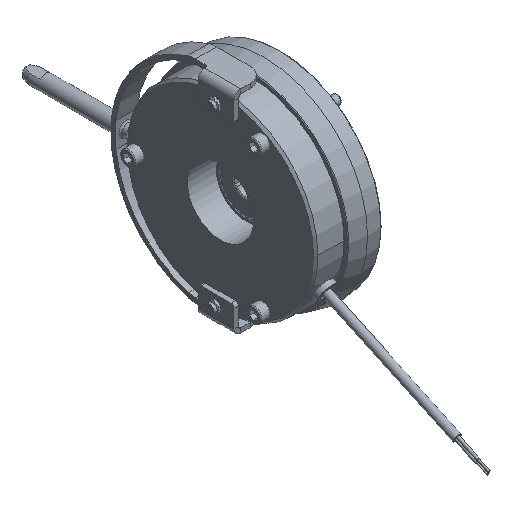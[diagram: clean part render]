
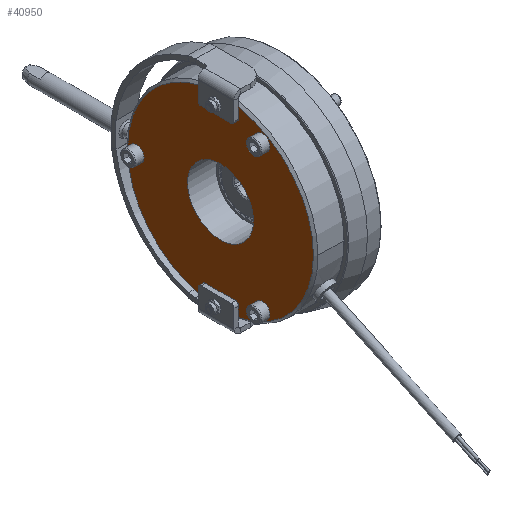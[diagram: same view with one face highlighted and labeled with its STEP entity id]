
A CAD part, isometric view. The second image highlights one B-rep face of the part: STEP entity #40950.
In plain terms, the highlighted planar face has unit normal (-1, 0, 0).
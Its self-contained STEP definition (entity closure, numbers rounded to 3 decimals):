
#2469=FACE_BOUND('',#7057,.T.);
#2470=FACE_BOUND('',#7058,.T.);
#2471=FACE_BOUND('',#7059,.T.);
#2472=FACE_BOUND('',#7060,.T.);
#2895=PLANE('',#45080);
#4909=FACE_OUTER_BOUND('',#7056,.T.);
#7056=EDGE_LOOP('',(#35412,#35413,#35414,#35415,#35416,#35417,#35418,#35419,
#35420,#35421,#35422,#35423,#35424));
#7057=EDGE_LOOP('',(#35425));
#7058=EDGE_LOOP('',(#35426,#35427));
#7059=EDGE_LOOP('',(#35428,#35429));
#7060=EDGE_LOOP('',(#35430,#35431));
#9045=LINE('',#84785,#11030);
#9046=LINE('',#84789,#11031);
#9047=LINE('',#84792,#11032);
#9048=LINE('',#84794,#11033);
#9049=LINE('',#84798,#11034);
#9050=LINE('',#84801,#11035);
#11030=VECTOR('',#55100,10.);
#11031=VECTOR('',#55103,10.);
#11032=VECTOR('',#55106,10.);
#11033=VECTOR('',#55107,10.);
#11034=VECTOR('',#55110,10.);
#11035=VECTOR('',#55113,10.);
#12208=CIRCLE('',#42458,22.);
#12229=CIRCLE('',#42484,62.);
#12231=CIRCLE('',#42486,62.);
#12233=CIRCLE('',#42488,62.);
#12277=CIRCLE('',#42565,5.);
#12278=CIRCLE('',#42566,5.);
#12290=CIRCLE('',#42592,5.);
#12291=CIRCLE('',#42593,5.);
#12303=CIRCLE('',#42619,5.);
#12304=CIRCLE('',#42620,5.);
#13568=CIRCLE('',#45081,2.);
#13569=CIRCLE('',#45082,2.);
#13570=CIRCLE('',#45083,2.);
#13571=CIRCLE('',#45084,2.);
#15202=VERTEX_POINT('',#60451);
#15222=VERTEX_POINT('',#60501);
#15223=VERTEX_POINT('',#60503);
#15224=VERTEX_POINT('',#60505);
#15225=VERTEX_POINT('',#60507);
#15226=VERTEX_POINT('',#60509);
#15283=VERTEX_POINT('',#60858);
#15284=VERTEX_POINT('',#60859);
#15309=VERTEX_POINT('',#60948);
#15310=VERTEX_POINT('',#60949);
#15335=VERTEX_POINT('',#61038);
#15336=VERTEX_POINT('',#61039);
#17448=VERTEX_POINT('',#84784);
#17449=VERTEX_POINT('',#84786);
#17450=VERTEX_POINT('',#84788);
#17451=VERTEX_POINT('',#84790);
#17452=VERTEX_POINT('',#84793);
#17453=VERTEX_POINT('',#84795);
#17454=VERTEX_POINT('',#84797);
#17455=VERTEX_POINT('',#84799);
#19623=EDGE_CURVE('',#15202,#15202,#12208,.T.);
#19648=EDGE_CURVE('',#15222,#15223,#12229,.T.);
#19650=EDGE_CURVE('',#15224,#15225,#12231,.T.);
#19652=EDGE_CURVE('',#15226,#15222,#12233,.T.);
#19738=EDGE_CURVE('',#15283,#15284,#12277,.T.);
#19739=EDGE_CURVE('',#15284,#15283,#12278,.T.);
#19774=EDGE_CURVE('',#15309,#15310,#12290,.T.);
#19775=EDGE_CURVE('',#15310,#15309,#12291,.T.);
#19810=EDGE_CURVE('',#15335,#15336,#12303,.T.);
#19811=EDGE_CURVE('',#15336,#15335,#12304,.T.);
#23464=EDGE_CURVE('',#15224,#17448,#9045,.T.);
#23465=EDGE_CURVE('',#17448,#17449,#13568,.T.);
#23466=EDGE_CURVE('',#17449,#17450,#9046,.T.);
#23467=EDGE_CURVE('',#17450,#17451,#13569,.T.);
#23468=EDGE_CURVE('',#17451,#15223,#9047,.T.);
#23469=EDGE_CURVE('',#15226,#17452,#9048,.T.);
#23470=EDGE_CURVE('',#17452,#17453,#13570,.T.);
#23471=EDGE_CURVE('',#17453,#17454,#9049,.T.);
#23472=EDGE_CURVE('',#17454,#17455,#13571,.T.);
#23473=EDGE_CURVE('',#17455,#15225,#9050,.T.);
#35412=ORIENTED_EDGE('',*,*,#23464,.T.);
#35413=ORIENTED_EDGE('',*,*,#23465,.T.);
#35414=ORIENTED_EDGE('',*,*,#23466,.T.);
#35415=ORIENTED_EDGE('',*,*,#23467,.T.);
#35416=ORIENTED_EDGE('',*,*,#23468,.T.);
#35417=ORIENTED_EDGE('',*,*,#19648,.F.);
#35418=ORIENTED_EDGE('',*,*,#19652,.F.);
#35419=ORIENTED_EDGE('',*,*,#23469,.T.);
#35420=ORIENTED_EDGE('',*,*,#23470,.T.);
#35421=ORIENTED_EDGE('',*,*,#23471,.T.);
#35422=ORIENTED_EDGE('',*,*,#23472,.T.);
#35423=ORIENTED_EDGE('',*,*,#23473,.T.);
#35424=ORIENTED_EDGE('',*,*,#19650,.F.);
#35425=ORIENTED_EDGE('',*,*,#19623,.T.);
#35426=ORIENTED_EDGE('',*,*,#19738,.T.);
#35427=ORIENTED_EDGE('',*,*,#19739,.T.);
#35428=ORIENTED_EDGE('',*,*,#19774,.T.);
#35429=ORIENTED_EDGE('',*,*,#19775,.T.);
#35430=ORIENTED_EDGE('',*,*,#19810,.T.);
#35431=ORIENTED_EDGE('',*,*,#19811,.T.);
#40950=ADVANCED_FACE('',(#4909,#2469,#2470,#2471,#2472),#2895,.T.);
#42458=AXIS2_PLACEMENT_3D('',#60453,#48744,#48745);
#42484=AXIS2_PLACEMENT_3D('',#60504,#48800,#48801);
#42486=AXIS2_PLACEMENT_3D('',#60508,#48804,#48805);
#42488=AXIS2_PLACEMENT_3D('',#60511,#48808,#48809);
#42565=AXIS2_PLACEMENT_3D('',#60860,#48993,#48994);
#42566=AXIS2_PLACEMENT_3D('',#60861,#48995,#48996);
#42592=AXIS2_PLACEMENT_3D('',#60950,#49063,#49064);
#42593=AXIS2_PLACEMENT_3D('',#60951,#49065,#49066);
#42619=AXIS2_PLACEMENT_3D('',#61040,#49133,#49134);
#42620=AXIS2_PLACEMENT_3D('',#61041,#49135,#49136);
#45080=AXIS2_PLACEMENT_3D('',#84783,#55098,#55099);
#45081=AXIS2_PLACEMENT_3D('',#84787,#55101,#55102);
#45082=AXIS2_PLACEMENT_3D('',#84791,#55104,#55105);
#45083=AXIS2_PLACEMENT_3D('',#84796,#55108,#55109);
#45084=AXIS2_PLACEMENT_3D('',#84800,#55111,#55112);
#48744=DIRECTION('center_axis',(1.,0.,0.));
#48745=DIRECTION('ref_axis',(0.,0.,1.));
#48800=DIRECTION('center_axis',(1.,0.,0.));
#48801=DIRECTION('ref_axis',(0.,-1.,0.));
#48804=DIRECTION('center_axis',(1.,0.,0.));
#48805=DIRECTION('ref_axis',(0.,-1.,0.));
#48808=DIRECTION('center_axis',(1.,0.,0.));
#48809=DIRECTION('ref_axis',(0.,-1.,0.));
#48993=DIRECTION('center_axis',(1.,0.,0.));
#48994=DIRECTION('ref_axis',(0.,-0.5,0.866));
#48995=DIRECTION('center_axis',(1.,0.,0.));
#48996=DIRECTION('ref_axis',(0.,-0.5,0.866));
#49063=DIRECTION('center_axis',(1.,0.,0.));
#49064=DIRECTION('ref_axis',(0.,-1.,0.));
#49065=DIRECTION('center_axis',(1.,0.,0.));
#49066=DIRECTION('ref_axis',(0.,-1.,0.));
#49133=DIRECTION('center_axis',(1.,0.,0.));
#49134=DIRECTION('ref_axis',(0.,-0.5,0.866));
#49135=DIRECTION('center_axis',(1.,0.,0.));
#49136=DIRECTION('ref_axis',(0.,-0.5,0.866));
#55098=DIRECTION('center_axis',(-1.,0.,0.));
#55099=DIRECTION('ref_axis',(0.,0.,1.));
#55100=DIRECTION('',(0.,0.,-1.));
#55101=DIRECTION('center_axis',(1.,0.,0.));
#55102=DIRECTION('ref_axis',(0.,-0.707,-0.707));
#55103=DIRECTION('',(0.,1.,0.));
#55104=DIRECTION('center_axis',(1.,0.,0.));
#55105=DIRECTION('ref_axis',(0.,0.707,-0.707));
#55106=DIRECTION('',(0.,0.,1.));
#55107=DIRECTION('',(0.,0.,1.));
#55108=DIRECTION('center_axis',(1.,0.,0.));
#55109=DIRECTION('ref_axis',(0.,0.707,0.707));
#55110=DIRECTION('',(0.,-1.,0.));
#55111=DIRECTION('center_axis',(1.,0.,0.));
#55112=DIRECTION('ref_axis',(0.,-0.707,0.707));
#55113=DIRECTION('',(0.,0.,-1.));
#60451=CARTESIAN_POINT('',(-23.,0.,-22.));
#60453=CARTESIAN_POINT('Origin',(-23.,0.,0.));
#60501=CARTESIAN_POINT('',(-23.,62.,0.));
#60503=CARTESIAN_POINT('',(-23.,12.,60.828));
#60504=CARTESIAN_POINT('Origin',(-23.,0.,0.));
#60505=CARTESIAN_POINT('',(-23.,-12.,60.828));
#60507=CARTESIAN_POINT('',(-23.,-12.,-60.828));
#60508=CARTESIAN_POINT('Origin',(-23.,0.,0.));
#60509=CARTESIAN_POINT('',(-23.,12.,-60.828));
#60511=CARTESIAN_POINT('Origin',(-23.,0.,0.));
#60858=CARTESIAN_POINT('',(-23.,-30.5,52.828));
#60859=CARTESIAN_POINT('',(-23.,-25.5,44.167));
#60860=CARTESIAN_POINT('Origin',(-23.,-28.,48.497));
#60861=CARTESIAN_POINT('Origin',(-23.,-28.,48.497));
#60948=CARTESIAN_POINT('',(-23.,-33.,-48.497));
#60949=CARTESIAN_POINT('',(-23.,-23.,-48.497));
#60950=CARTESIAN_POINT('Origin',(-23.,-28.,-48.497));
#60951=CARTESIAN_POINT('Origin',(-23.,-28.,-48.497));
#61038=CARTESIAN_POINT('',(-23.,53.5,4.33));
#61039=CARTESIAN_POINT('',(-23.,58.5,-4.33));
#61040=CARTESIAN_POINT('Origin',(-23.,56.,0.));
#61041=CARTESIAN_POINT('Origin',(-23.,56.,0.));
#84783=CARTESIAN_POINT('Origin',(-23.,31.75,0.));
#84784=CARTESIAN_POINT('',(-23.,-12.,54.));
#84785=CARTESIAN_POINT('',(-23.,-12.,33.));
#84786=CARTESIAN_POINT('',(-23.,-10.,52.));
#84787=CARTESIAN_POINT('Origin',(-23.,-10.,54.));
#84788=CARTESIAN_POINT('',(-23.,10.,52.));
#84789=CARTESIAN_POINT('',(-23.,21.875,52.));
#84790=CARTESIAN_POINT('',(-23.,12.,54.));
#84791=CARTESIAN_POINT('Origin',(-23.,10.,54.));
#84792=CARTESIAN_POINT('',(-23.,12.,33.));
#84793=CARTESIAN_POINT('',(-23.,12.,-54.));
#84794=CARTESIAN_POINT('',(-23.,12.,-33.));
#84795=CARTESIAN_POINT('',(-23.,10.,-52.));
#84796=CARTESIAN_POINT('Origin',(-23.,10.,-54.));
#84797=CARTESIAN_POINT('',(-23.,-10.,-52.));
#84798=CARTESIAN_POINT('',(-23.,21.875,-52.));
#84799=CARTESIAN_POINT('',(-23.,-12.,-54.));
#84800=CARTESIAN_POINT('Origin',(-23.,-10.,-54.));
#84801=CARTESIAN_POINT('',(-23.,-12.,-33.));
